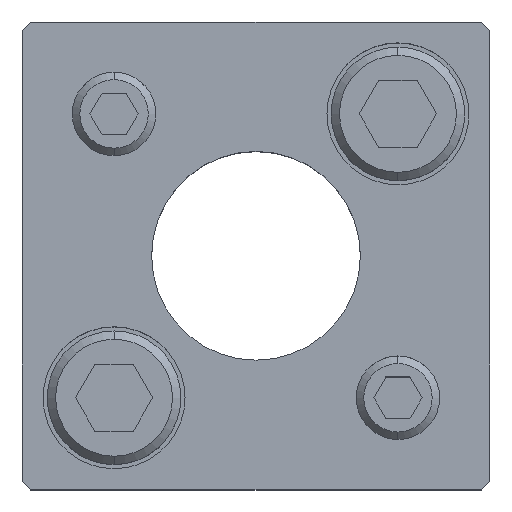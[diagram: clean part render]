
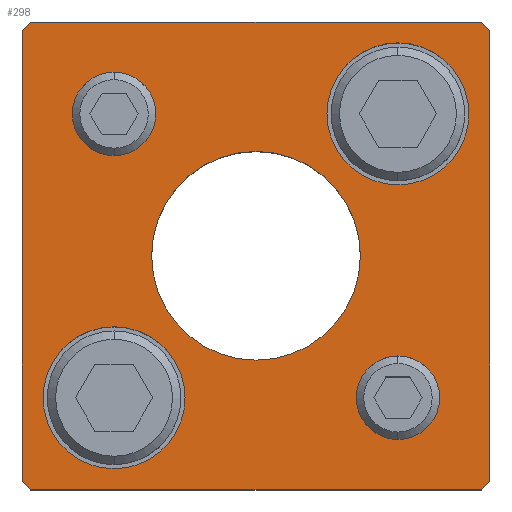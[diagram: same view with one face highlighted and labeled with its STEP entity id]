
A CAD part, top view. The second image highlights one B-rep face of the part: STEP entity #298.
In plain terms, the highlighted planar face has unit normal (0, 0, 1).
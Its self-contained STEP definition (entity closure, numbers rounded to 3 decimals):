
#153=PLANE('',#2436);
#220=FACE_BOUND('',#611,.T.);
#221=FACE_BOUND('',#612,.T.);
#222=FACE_BOUND('',#613,.T.);
#223=FACE_BOUND('',#614,.T.);
#224=FACE_BOUND('',#615,.T.);
#225=FACE_BOUND('',#616,.T.);
#298=ADVANCED_FACE('',(#220,#221,#222,#223,#224,#225),#153,.T.);
#611=EDGE_LOOP('',(#1281,#1282,#1283,#1284,#1285,#1286,#1287,#1288));
#612=EDGE_LOOP('',(#1289,#1290));
#613=EDGE_LOOP('',(#1291,#1292));
#614=EDGE_LOOP('',(#1293,#1294));
#615=EDGE_LOOP('',(#1295,#1296));
#616=EDGE_LOOP('',(#1297,#1298));
#759=LINE('',#3542,#941);
#760=LINE('',#3545,#942);
#761=LINE('',#3547,#943);
#762=LINE('',#3549,#944);
#763=LINE('',#3551,#945);
#764=LINE('',#3553,#946);
#765=LINE('',#3555,#947);
#766=LINE('',#3557,#948);
#941=VECTOR('',#2839,1.);
#942=VECTOR('',#2840,1.);
#943=VECTOR('',#2841,1.);
#944=VECTOR('',#2842,1.);
#945=VECTOR('',#2843,1.);
#946=VECTOR('',#2844,1.);
#947=VECTOR('',#2845,1.);
#948=VECTOR('',#2846,1.);
#1281=ORIENTED_EDGE('',*,*,#2001,.T.);
#1282=ORIENTED_EDGE('',*,*,#2002,.T.);
#1283=ORIENTED_EDGE('',*,*,#2003,.T.);
#1284=ORIENTED_EDGE('',*,*,#2004,.T.);
#1285=ORIENTED_EDGE('',*,*,#2005,.T.);
#1286=ORIENTED_EDGE('',*,*,#2006,.T.);
#1287=ORIENTED_EDGE('',*,*,#2007,.T.);
#1288=ORIENTED_EDGE('',*,*,#2008,.T.);
#1289=ORIENTED_EDGE('',*,*,#2009,.F.);
#1290=ORIENTED_EDGE('',*,*,#2010,.F.);
#1291=ORIENTED_EDGE('',*,*,#2011,.F.);
#1292=ORIENTED_EDGE('',*,*,#2012,.F.);
#1293=ORIENTED_EDGE('',*,*,#1987,.F.);
#1294=ORIENTED_EDGE('',*,*,#1983,.F.);
#1295=ORIENTED_EDGE('',*,*,#1981,.F.);
#1296=ORIENTED_EDGE('',*,*,#1977,.F.);
#1297=ORIENTED_EDGE('',*,*,#2013,.T.);
#1298=ORIENTED_EDGE('',*,*,#2014,.T.);
#1751=VERTEX_POINT('',#3493);
#1752=VERTEX_POINT('',#3494);
#1755=VERTEX_POINT('',#3506);
#1756=VERTEX_POINT('',#3507);
#1767=VERTEX_POINT('',#3543);
#1768=VERTEX_POINT('',#3544);
#1769=VERTEX_POINT('',#3546);
#1770=VERTEX_POINT('',#3548);
#1771=VERTEX_POINT('',#3550);
#1772=VERTEX_POINT('',#3552);
#1773=VERTEX_POINT('',#3554);
#1774=VERTEX_POINT('',#3556);
#1775=VERTEX_POINT('',#3559);
#1776=VERTEX_POINT('',#3560);
#1777=VERTEX_POINT('',#3563);
#1778=VERTEX_POINT('',#3564);
#1779=VERTEX_POINT('',#3567);
#1780=VERTEX_POINT('',#3568);
#1977=EDGE_CURVE('',#1751,#1752,#2247,.T.);
#1981=EDGE_CURVE('',#1752,#1751,#2249,.T.);
#1983=EDGE_CURVE('',#1755,#1756,#2251,.T.);
#1987=EDGE_CURVE('',#1756,#1755,#2253,.T.);
#2001=EDGE_CURVE('',#1767,#1768,#759,.T.);
#2002=EDGE_CURVE('',#1768,#1769,#760,.T.);
#2003=EDGE_CURVE('',#1769,#1770,#761,.T.);
#2004=EDGE_CURVE('',#1770,#1771,#762,.T.);
#2005=EDGE_CURVE('',#1771,#1772,#763,.T.);
#2006=EDGE_CURVE('',#1772,#1773,#764,.T.);
#2007=EDGE_CURVE('',#1773,#1774,#765,.T.);
#2008=EDGE_CURVE('',#1774,#1767,#766,.T.);
#2009=EDGE_CURVE('',#1775,#1776,#2263,.T.);
#2010=EDGE_CURVE('',#1776,#1775,#2264,.T.);
#2011=EDGE_CURVE('',#1777,#1778,#2265,.T.);
#2012=EDGE_CURVE('',#1778,#1777,#2266,.T.);
#2013=EDGE_CURVE('',#1779,#1780,#2267,.T.);
#2014=EDGE_CURVE('',#1780,#1779,#2268,.T.);
#2247=CIRCLE('',#2404,5.);
#2249=CIRCLE('',#2407,5.);
#2251=CIRCLE('',#2411,5.);
#2253=CIRCLE('',#2414,5.);
#2263=CIRCLE('',#2430,8.5);
#2264=CIRCLE('',#2431,8.5);
#2265=CIRCLE('',#2432,8.5);
#2266=CIRCLE('',#2433,8.5);
#2267=CIRCLE('',#2434,12.5);
#2268=CIRCLE('',#2435,12.5);
#2404=AXIS2_PLACEMENT_3D('',#3492,#2779,#2780);
#2407=AXIS2_PLACEMENT_3D('',#3501,#2787,#2788);
#2411=AXIS2_PLACEMENT_3D('',#3505,#2795,#2796);
#2414=AXIS2_PLACEMENT_3D('',#3514,#2803,#2804);
#2430=AXIS2_PLACEMENT_3D('',#3558,#2847,#2848);
#2431=AXIS2_PLACEMENT_3D('',#3561,#2849,#2850);
#2432=AXIS2_PLACEMENT_3D('',#3562,#2851,#2852);
#2433=AXIS2_PLACEMENT_3D('',#3565,#2853,#2854);
#2434=AXIS2_PLACEMENT_3D('',#3566,#2855,#2856);
#2435=AXIS2_PLACEMENT_3D('',#3569,#2857,#2858);
#2436=AXIS2_PLACEMENT_3D('',#3570,#2859,#2860);
#2779=DIRECTION('',(0.,0.,1.));
#2780=DIRECTION('',(-1.,0.,0.));
#2787=DIRECTION('',(0.,0.,1.));
#2788=DIRECTION('',(1.,0.,0.));
#2795=DIRECTION('',(0.,0.,1.));
#2796=DIRECTION('',(-1.,0.,0.));
#2803=DIRECTION('',(0.,0.,1.));
#2804=DIRECTION('',(1.,0.,0.));
#2839=DIRECTION('',(0.707,0.707,0.));
#2840=DIRECTION('',(0.,1.,0.));
#2841=DIRECTION('',(-0.707,0.707,0.));
#2842=DIRECTION('',(-1.,0.,0.));
#2843=DIRECTION('',(-0.707,-0.707,0.));
#2844=DIRECTION('',(0.,-1.,0.));
#2845=DIRECTION('',(0.707,-0.707,0.));
#2846=DIRECTION('',(1.,0.,0.));
#2847=DIRECTION('',(0.,0.,1.));
#2848=DIRECTION('',(1.,0.,0.));
#2849=DIRECTION('',(0.,0.,1.));
#2850=DIRECTION('',(-1.,0.,0.));
#2851=DIRECTION('',(0.,0.,1.));
#2852=DIRECTION('',(1.,0.,0.));
#2853=DIRECTION('',(0.,0.,1.));
#2854=DIRECTION('',(-1.,0.,0.));
#2855=DIRECTION('',(0.,0.,-1.));
#2856=DIRECTION('',(-1.,0.,0.));
#2857=DIRECTION('',(0.,0.,-1.));
#2858=DIRECTION('',(1.,0.,0.));
#2859=DIRECTION('',(0.,0.,1.));
#2860=DIRECTION('',(-1.,0.,0.));
#3492=CARTESIAN_POINT('',(17.,-17.,30.));
#3493=CARTESIAN_POINT('',(17.,-22.,30.));
#3494=CARTESIAN_POINT('',(17.,-12.,30.));
#3501=CARTESIAN_POINT('',(17.,-17.,30.));
#3505=CARTESIAN_POINT('',(-17.,17.,30.));
#3506=CARTESIAN_POINT('',(-17.,12.,30.));
#3507=CARTESIAN_POINT('',(-17.,22.,30.));
#3514=CARTESIAN_POINT('',(-17.,17.,30.));
#3542=CARTESIAN_POINT('',(27.,-28.,30.));
#3543=CARTESIAN_POINT('',(27.,-28.,30.));
#3544=CARTESIAN_POINT('',(28.,-27.,30.));
#3545=CARTESIAN_POINT('',(28.,27.,30.));
#3546=CARTESIAN_POINT('',(28.,27.,30.));
#3547=CARTESIAN_POINT('',(28.,27.,30.));
#3548=CARTESIAN_POINT('',(27.,28.,30.));
#3549=CARTESIAN_POINT('',(-27.,28.,30.));
#3550=CARTESIAN_POINT('',(-27.,28.,30.));
#3551=CARTESIAN_POINT('',(-27.,28.,30.));
#3552=CARTESIAN_POINT('',(-28.,27.,30.));
#3553=CARTESIAN_POINT('',(-28.,27.,30.));
#3554=CARTESIAN_POINT('',(-28.,-27.,30.));
#3555=CARTESIAN_POINT('',(-28.,-27.,30.));
#3556=CARTESIAN_POINT('',(-27.,-28.,30.));
#3557=CARTESIAN_POINT('',(-27.,-28.,30.));
#3558=CARTESIAN_POINT('',(17.,17.,30.));
#3559=CARTESIAN_POINT('',(17.,25.5,30.));
#3560=CARTESIAN_POINT('',(17.,8.5,30.));
#3561=CARTESIAN_POINT('',(17.,17.,30.));
#3562=CARTESIAN_POINT('',(-17.,-17.,30.));
#3563=CARTESIAN_POINT('',(-17.,-8.5,30.));
#3564=CARTESIAN_POINT('',(-17.,-25.5,30.));
#3565=CARTESIAN_POINT('',(-17.,-17.,30.));
#3566=CARTESIAN_POINT('',(0.,0.,30.));
#3567=CARTESIAN_POINT('',(0.,12.5,30.));
#3568=CARTESIAN_POINT('',(0.,-12.5,30.));
#3569=CARTESIAN_POINT('',(0.,0.,30.));
#3570=CARTESIAN_POINT('',(27.,-28.,30.));
